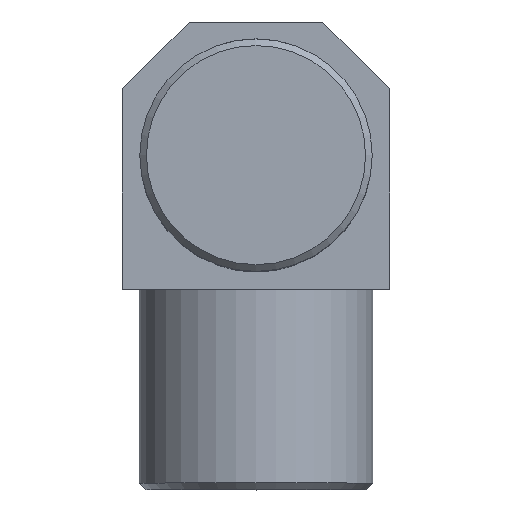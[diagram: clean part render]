
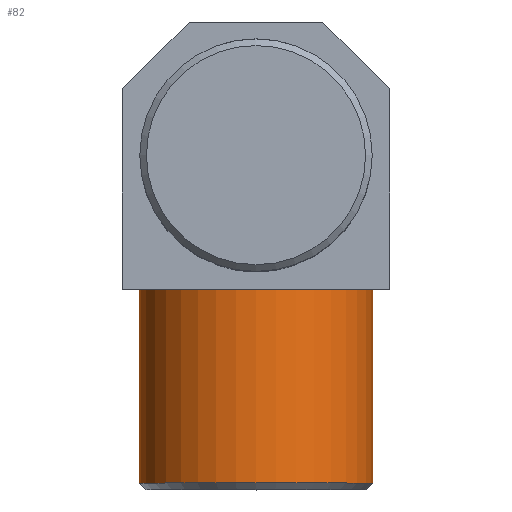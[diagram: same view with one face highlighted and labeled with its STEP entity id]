
A CAD part, top view. The second image highlights one B-rep face of the part: STEP entity #82.
In plain terms, the highlighted cylindrical face has radius 17.5 mm (diameter 35 mm), a full revolution.
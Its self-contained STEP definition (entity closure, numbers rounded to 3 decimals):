
#82 = ADVANCED_FACE( '', ( #128, #129 ), #130, .T. );
#128 = FACE_OUTER_BOUND( '', #222, .T. );
#129 = FACE_OUTER_BOUND( '', #223, .T. );
#130 = CYLINDRICAL_SURFACE( '', #224, 17.5 );
#222 = EDGE_LOOP( '', ( #344 ) );
#223 = EDGE_LOOP( '', ( #345 ) );
#224 = AXIS2_PLACEMENT_3D( '', #346, #347, #348 );
#344 = ORIENTED_EDGE( '', *, *, #504, .T. );
#345 = ORIENTED_EDGE( '', *, *, #520, .F. );
#346 = CARTESIAN_POINT( '', ( 20., -30., 19.625 ) );
#347 = DIRECTION( '', ( 0., -1., 0. ) );
#348 = DIRECTION( '', ( 0., 0., 1. ) );
#504 = EDGE_CURVE( '', #562, #562, #563, .T. );
#520 = EDGE_CURVE( '', #588, #588, #589, .T. );
#562 = VERTEX_POINT( '', #656 );
#563 = CIRCLE( '', #657, 17.5 );
#588 = VERTEX_POINT( '', #732 );
#589 = CIRCLE( '', #733, 17.5 );
#656 = CARTESIAN_POINT( '', ( 20., -29., 37.125 ) );
#657 = AXIS2_PLACEMENT_3D( '', #1028, #1029, #1030 );
#732 = CARTESIAN_POINT( '', ( 2.5, 0., 19.625 ) );
#733 = AXIS2_PLACEMENT_3D( '', #1067, #1068, #1069 );
#1028 = CARTESIAN_POINT( '', ( 20., -29., 19.625 ) );
#1029 = DIRECTION( '', ( 0., 1., 0. ) );
#1030 = DIRECTION( '', ( 0., 0., 1. ) );
#1067 = CARTESIAN_POINT( '', ( 20., 0., 19.625 ) );
#1068 = DIRECTION( '', ( 0., 1., 0. ) );
#1069 = DIRECTION( '', ( -1., 0., 0. ) );
